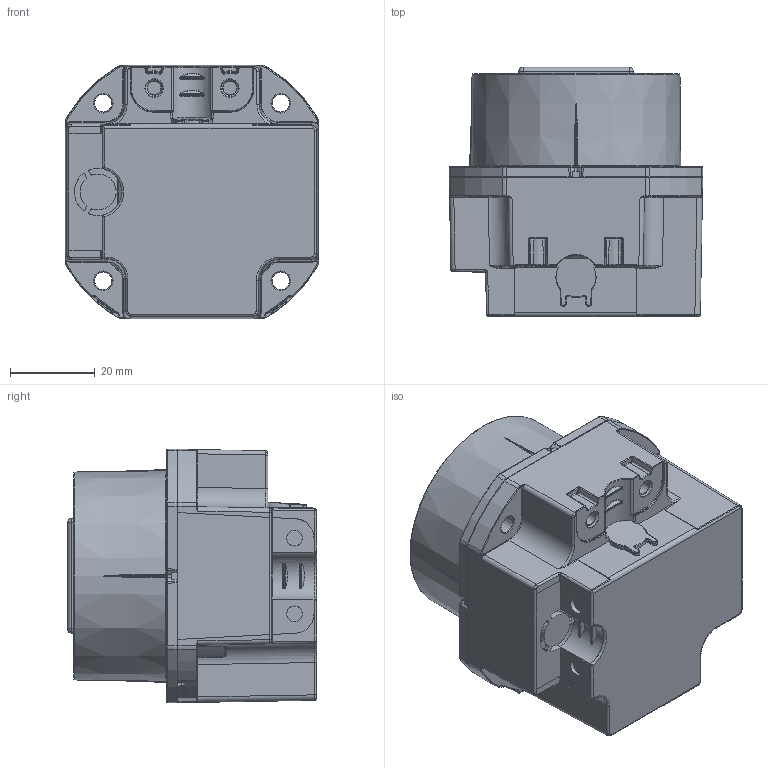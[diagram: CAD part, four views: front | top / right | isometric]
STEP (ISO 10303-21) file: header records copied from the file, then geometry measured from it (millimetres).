
FILE_DESCRIPTION((''),'2;1');
FILE_NAME('P:\Manufacturing\Autocad drawings\Inventor\blocks\Pop - Blocks\POP US1.stp','2021-01-19T09:40:02',('ScottReyner'),(''),'Autodesk Inventor 2012','Autodesk Inventor 2012','');
FILE_SCHEMA(('AUTOMOTIVE_DESIGN { 1 0 10303 214 1 1 1 1 }'));
Length unit declared in the file: inch
Products named in the file (1): Part2
Bounding box: 60 x 58.96 x 60 mm (x, y, z)
Volume: 107519.4 mm3; surface area: 29431.2 mm2
Topology: 3 solids, 8 shells, 1064 faces, 2679 edges, 1609 vertices
Faces by surface type: cylinder 343, bspline 305, plane 257, torus 96, cone 45, sphere 18
Full cylindrical faces by diameter (mm): 4.174 x4, 44.8 x1, 45 x1
Entity records: 39338 total; most frequent: CARTESIAN_POINT 15501, ORIENTED_EDGE 5184, DIRECTION 4821, EDGE_CURVE 2592, AXIS2_PLACEMENT_3D 1943, VERTEX_POINT 1594, EDGE_LOOP 1146, FACE_OUTER_BOUND 1064
